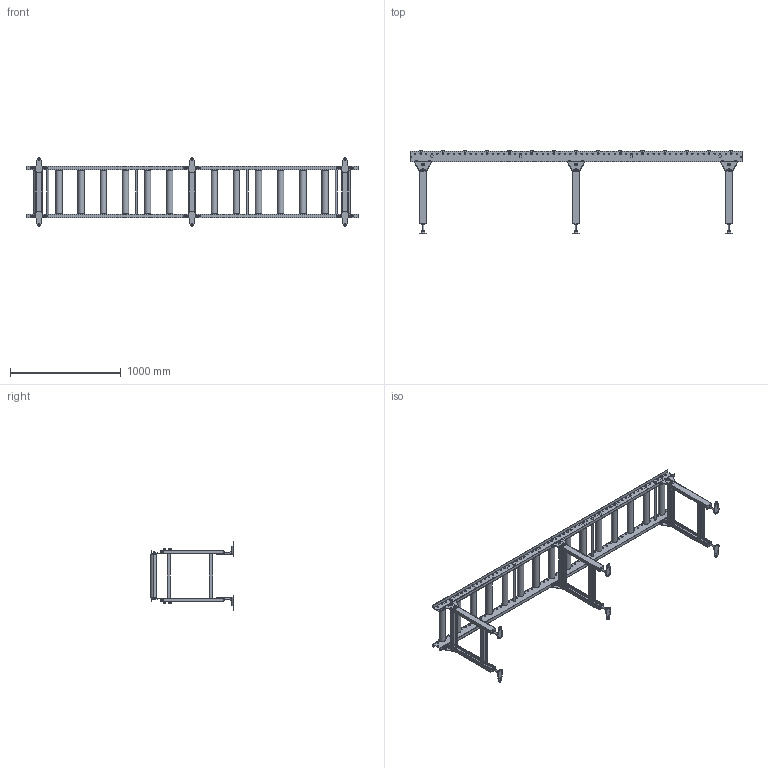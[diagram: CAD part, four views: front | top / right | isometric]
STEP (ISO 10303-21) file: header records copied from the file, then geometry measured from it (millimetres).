
FILE_DESCRIPTION (( 'STEP AP214' ), '1' );
FILE_NAME ('JR-5721-400-200-3000.STEP', '2024-03-19T08:36:07', ( '' ), ( '' ), 'SwSTEP 2.0', 'SolidWorks 2017', '' );
FILE_SCHEMA (( 'AUTOMOTIVE_DESIGN' ));
Length unit declared in the file: millimetre
Products named in the file (1): JR-5721-400-200-3000
Bounding box: 2994 x 750 x 614 mm (x, y, z)
Volume: 20087821.1 mm3; surface area: 4826796.8 mm2
Topology: 16 solids, 16 shells, 2222 faces, 5598 edges, 3604 vertices
Faces by surface type: plane 1398, cylinder 800, cone 12, bspline 12
Entity records: 68993 total; most frequent: CARTESIAN_POINT 13099, DIRECTION 11938, ORIENTED_EDGE 11196, EDGE_CURVE 5598, AXIS2_PLACEMENT_3D 4183, VERTEX_POINT 3604, LINE 3572, VECTOR 3572
